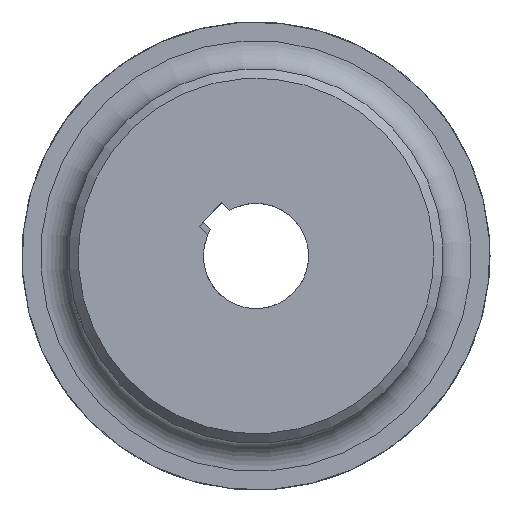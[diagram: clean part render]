
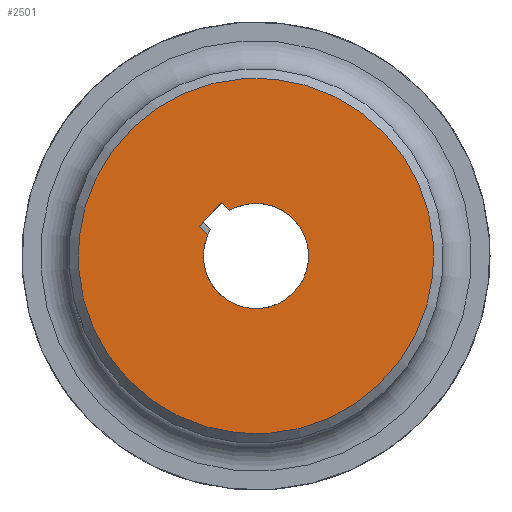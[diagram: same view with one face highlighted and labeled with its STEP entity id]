
A CAD part, left-side view. The second image highlights one B-rep face of the part: STEP entity #2501.
In plain terms, the highlighted planar face has unit normal (-1, 0, 0) as drawn and (0, 0, -1) by its records, which use the part's own axes.
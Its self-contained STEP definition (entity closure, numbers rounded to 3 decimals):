
#136=LINE('',#5663,#225);
#139=LINE('',#5669,#228);
#142=LINE('',#5675,#231);
#225=VECTOR('',#3281,10.);
#228=VECTOR('',#3286,10.);
#231=VECTOR('',#3291,10.);
#324=FACE_BOUND('',#608,.T.);
#460=FACE_OUTER_BOUND('',#607,.T.);
#607=EDGE_LOOP('',(#2305));
#608=EDGE_LOOP('',(#2306,#2307,#2308,#2309));
#837=CIRCLE('',#2764,22.5);
#907=CIRCLE('',#2874,76.);
#1084=VERTEX_POINT('',#5660);
#1085=VERTEX_POINT('',#5662);
#1087=VERTEX_POINT('',#5668);
#1089=VERTEX_POINT('',#5674);
#1164=VERTEX_POINT('',#5994);
#1427=EDGE_CURVE('',#1085,#1084,#136,.T.);
#1430=EDGE_CURVE('',#1087,#1085,#139,.T.);
#1433=EDGE_CURVE('',#1089,#1087,#142,.T.);
#1436=EDGE_CURVE('',#1084,#1089,#837,.T.);
#1547=EDGE_CURVE('',#1164,#1164,#907,.T.);
#2305=ORIENTED_EDGE('',*,*,#1547,.F.);
#2306=ORIENTED_EDGE('',*,*,#1433,.T.);
#2307=ORIENTED_EDGE('',*,*,#1430,.T.);
#2308=ORIENTED_EDGE('',*,*,#1427,.T.);
#2309=ORIENTED_EDGE('',*,*,#1436,.T.);
#2366=PLANE('',#2873);
#2501=ADVANCED_FACE('',(#460,#324),#2366,.T.);
#2764=AXIS2_PLACEMENT_3D('',#5679,#3297,#3298);
#2873=AXIS2_PLACEMENT_3D('',#5993,#3546,#3547);
#2874=AXIS2_PLACEMENT_3D('',#5995,#3548,#3549);
#3281=DIRECTION('',(0.995,0.105,0.));
#3286=DIRECTION('',(0.105,-0.995,0.));
#3291=DIRECTION('',(-0.995,-0.105,0.));
#3297=DIRECTION('center_axis',(0.,0.,
1.));
#3298=DIRECTION('ref_axis',(0.995,0.105,0.));
#3546=DIRECTION('center_axis',(0.,0.,
-1.));
#3547=DIRECTION('ref_axis',(0.,-1.,0.));
#3548=DIRECTION('center_axis',(0.,0.,
1.));
#3549=DIRECTION('ref_axis',(0.,1.,0.));
#5660=CARTESIAN_POINT('',(-20.535,-9.197,-100.));
#5662=CARTESIAN_POINT('',(-25.424,-9.711,-100.));
#5663=CARTESIAN_POINT('',(-12.346,-8.336,-100.));
#5668=CARTESIAN_POINT('',(-26.888,4.213,-100.));
#5669=CARTESIAN_POINT('',(-26.522,0.732,-100.));
#5674=CARTESIAN_POINT('',(-21.998,4.726,-100.));
#5675=CARTESIAN_POINT('',(-11.365,5.844,-100.));
#5679=CARTESIAN_POINT('Origin',(0.,0.,
-100.));
#5993=CARTESIAN_POINT('Origin',(0.,0.,
-100.));
#5994=CARTESIAN_POINT('',(0.,-76.,-100.));
#5995=CARTESIAN_POINT('Origin',(0.,0.,
-100.));
